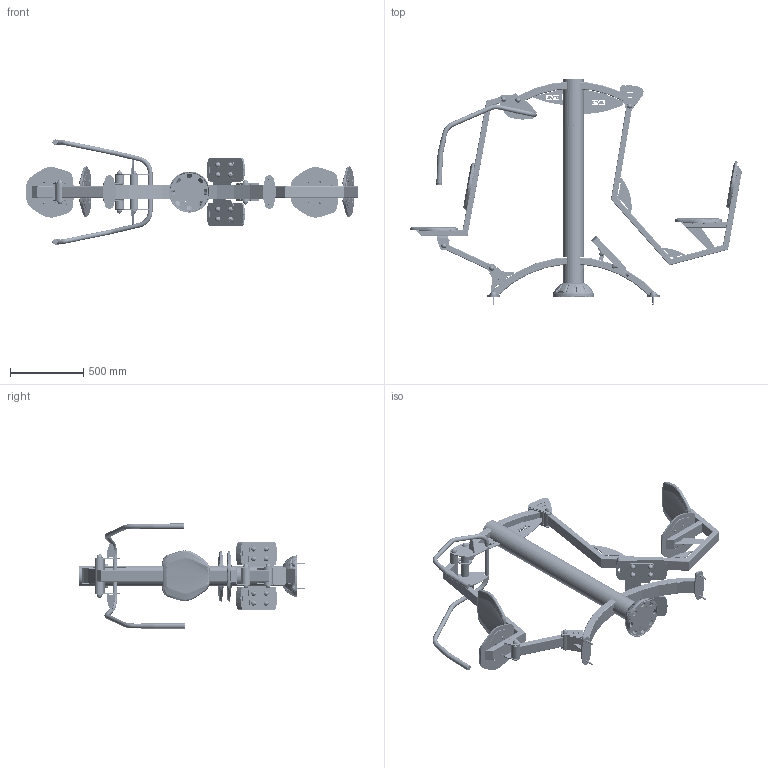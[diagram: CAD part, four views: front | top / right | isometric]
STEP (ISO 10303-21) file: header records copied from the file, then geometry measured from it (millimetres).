
FILE_DESCRIPTION (( 'STEP AP203' ), '1' );
FILE_NAME ('M0320 - POUSSEUR-QUADRICEPS V1.1.STEP', '2020-02-18T08:22:13', ( '' ), ( '' ), 'SwSTEP 2.0', 'SolidWorks 2019', '' );
FILE_SCHEMA (( 'CONFIG_CONTROL_DESIGN' ));
Length unit declared in the file: millimetre
Products named in the file (87): TREPOSIE-M0303 - Tube potence siège Quadriceps V1.1; ARTICULATION D60 CHAPE 235 V1.0; SC0308 - Base pour capuchon en nylon 44 mm; TOLGOUR775-17 - Gousset pour tube R775 et boite à butée 17° V1.0; SBU1007 - Butee elastomere 60x38x20 V1.1_60x38x20; SB0121 - Cheville M12x90_default; SP0607 - Poignee plastique D.33,7 L=300_Pousseur; SR0416 - Rondelle plate petite M10 A2 ext 22mm; SB0112 - Vis Torx teton central M8x20_M8x20; SCHP2001.C - Chape pliee 124 廧 6 V2.2; SC0306C - Petit capuchon en nylon 36 mm; SF1101 - Ecrou frein M10 A2; PU-TOLGOPL - Gousset platine V2.0; SBB2101.B - Flasque boite a butee V1.4; SRP0206 - REPOSE PIED ASS V4.0_Capuchon Ｑ 6; SBB2114.A - Flasque boite a butee 17° V1.1; BASEPOUS-M0312 - BASE POUSSEUR ASS V5.0; TOLPL-230-90.A - Platine 230x90 V1.0; SSD0720 - Dossier-siège V1.2; SSD0720 - SIEGE DOSSIER ASS V1.2_‚p.3 - Fixation dossier; TOLAPQUA - Tole appui pieds Quadriceps V1.0; SBB2105.A - Support butee chape 110 V1.1_Bouchage Pousseur ; SBB2105.A - Support butee chape 110 V1.1; SCH1808 - Chapeau 76x51 pour tube 80x40 coupe à 45°; SR0404 - Rondelle plate Moyenne M8 A2; POTSIEG-M0303 - POTENCE SIEGE QUADRICEPS ASS V1.5; SR0415 - Rondelle Grower M8 A2; M0320 - POUSSEUR-QUADRICEPS V1.1; SB0101 - Vis CHC M8x40 inox A2; PU-TOLGORPQUA - gousset repose pied Quadriceps V1.1; POIGPOUS-M0312 - POIGNEE POUSSEUR ASS V5.0; SC0304 - Demi cache platine D140 V4.0; PU-TDRFIT281 - Tole renfort Fitpark L281 H170 V1.0; BATI-M0320 - BATI POUSSEUR-QUADRICEPS V1.1_RAL7012; SSD0718 - Demi plaque dossier béton pour tube 80x40 V1.1; TOLCHPOUS.D - Tole chape pousseur V5.0; SR0431 - Rondelle plastique pour roulement 6204 ép 5,3 V1.0; SBB2109 - Cale pour butee ep.6 V1.0; TROPPOU-M0312A - Tube poignee pousseur V3.0; SA1424 - Axe Inox D.20mm L281,3mm V1.0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
Assembly tree (274 placements, depth 4):
  M0320 - POUSSEUR-QUADRICEPS V1.1
    BATI-M0320 - BATI POUSSEUR-QUADRICEPS V1.1_RAL7012
      PLATINE BASE ASS V2.0_RAL7012
        PU-TOLPLAT - Platine base V1.0
        PU-TOLGOPL - Gousset platine V2.0  x4
      PU-TROCB1468 - Colonne base haute D.139,7x3 Ht1468 V2.1
      SCH1806.A - Chapeau D135 V1.2
      PU-TDRFIT219 - Tole renfort Fitpark L219 H106 V1.0
      SBB2130 - BOITE A BUTEE 17° OUVERTE ASS V1.0_Chape 110
        SBB2114.A - Flasque boite a butee 17° V1.1  x2
        SBB2113.A - Plaque latérale longue pour chape 110 ep.6 boite a butee V1.1__  x2
      TRECT-R750 - Tube rectangulaire cintré R750 100x50x3 L1310 V1.0
      SBA1608 - Bague 6204 L232 rainuré pour 100x50 V1.0
      TOLGOUR775-17 - Gousset pour tube R775 et boite à butée 17° V1.0  x2
      PU-TOLANTCO61 - Tole anti coincement  pour bague D.61 V1.0
      SBB2140 - BOITE A BUTEE AVEC DOUBLE ARRONDIS FERMES ASS V1.0_Chape 110
        SBB2102 - Plaque latérale pour chape 110 ep.6 boite a butee V1.2__
        SBB2101.B - Flasque boite a butee V1.4  x2
        SBB2108 - Plaque latérale courte pour chape 110 ep.6 boite a butee V1.0__  x2
        SBB2107 - Arrondi ferme boite a butee pour chape 110 V1.0  x2
      TOLAPQUA - Tole appui pieds Quadriceps V1.0
      PU-TOLGORPQUA - gousset repose pied Quadriceps V1.1
      PU-TDRFIT281 - Tole renfort Fitpark L281 H170 V1.0
      TOLPL-230-90.A - Platine 230x90 V1.0  x2
      TRECT-R750 - Tube rectangulaire cintré R750 100x50x3 L764 V1.0
    POTSIEG-M0303 - POTENCE SIEGE QUADRICEPS ASS V1.5
      TREPOSIE-M0303 - Tube potence siège Quadriceps V1.1
      TRESOSIE-M0303 - Tube sous siège Quadriceps V1.0
      SSD0716 - Demi support siège béton pour tube 80x40 V1.1  x2
      SSD0718 - Demi plaque dossier béton pour tube 80x40 V1.1  x2
      SBA1600 - Bague 6204 L107 V1.0
      SUPPORT BUTEE CHAPE 110 ASS V4.3_Avec but‚e simple + but‚e double + cale 6 mm
        SBB2105.A - Support butee chape 110 V1.1
        SBB2104 - Paroie support butee V4.1  x2
        SBU1007 - Butee elastomere 60x38x20 V1.1_60x38x20
        SF1100 - Ecrou frein M8 A2  x2
        SBB2109 - Cale pour butee ep.6 V1.0
        SB0101 - Vis CHC M8x40 inox A2
        SBU1008 - Butee elastomere 60x55x20 V1.0
        SR0404 - Rondelle plate Moyenne M8 A2  x4
        SB0122 - Vis CHC M8x35 inox A2
      SCH1808 - Chapeau 76x51 pour tube 80x40 coupe à 45°  x2
      PU-TOLGOSIQUA - Gousset siège Quadriceps V2.0
      TOLGODOUPOQUA - Gousset double potence Quadriceps V1.0  x2
      TOLGOUDINFQUA - Tôle Gousset double inferieur quadriceps V1.0 .  x2
    BASEPOUS-M0312 - BASE POUSSEUR ASS V5.0
      TRESSPOU-M0312C - Tube support siege pousseur V4.0
      SBA1607 - Bague 6204 L232 V1.0
      SSD0716 - Demi support siège béton pour tube 80x40 V1.1  x2
      SSD0718 - Demi plaque dossier béton pour tube 80x40 V1.1  x2
      SCH1808 - Chapeau 76x51 pour tube 80x40 coupe à 45°
      SCHP2001.C - Chape pliee 124 廧 6 V2.2
    POIGPOUS-M0312 - POIGNEE POUSSEUR ASS V5.0
      TROPPOU-M0312A - Tube poignee pousseur V3.0
      TOLCHPOUS.D - Tole chape pousseur V5.0  x2
      TOLREPOPOU.B - Tole renfort poignee pousseur V3.0  x2
    BIELLEPOU-M0312 - BIELLE POUSSEUR V4.0
      SBA1305 - Tube de liaison 80x40 L310 V1.0
      SUPPORT BUTEE CHAPE 110 ASS V4.3_Bouchage pousseur
        SBB2105.A - Support butee chape 110 V1.1_Bouchage Pousseur 
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Bounding box: 2266.35 x 1544.9 x 717.27 mm (x, y, z)
Volume: 23674255.6 mm3; surface area: 8342698.5 mm2
Topology: 301 solids, 317 shells, 8082 faces, 19569 edges, 12452 vertices
Faces by surface type: cylinder 2439, plane 2426, cone 1205, torus 874, bspline 858, sphere 280
Entity records: 209801 total; most frequent: CARTESIAN_POINT 124366, ORIENTED_EDGE 15256, DIRECTION 14297, EDGE_CURVE 7628, AXIS2_PLACEMENT_3D 5510, VERTEX_POINT 4899, EDGE_LOOP 3359, VECTOR 3277
